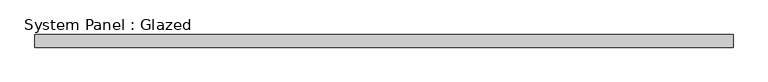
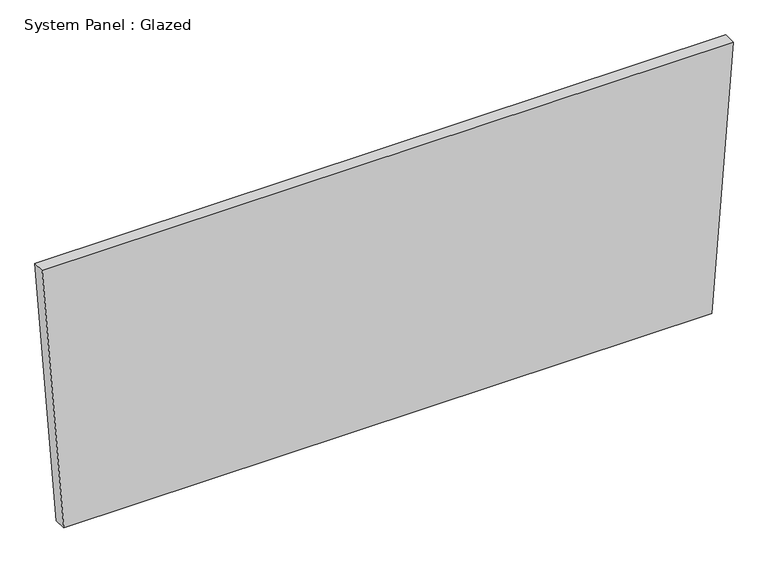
"""IFC4 building model written with IfcOpenShell, lengths in millimetres: plate geometry, System Panel : Glazed."""

from ifc_helpers import new_model, si_unit, frame, origin, place, context, project, spatial, polyline, outline, extrude, source, transform, mapped, element, save


def system_panel_glazed_5e4e3dcc(model_context):
    return source(origin(), model_context, "Body", "SweptSolid", [
        extrude(outline(polyline([(0.0, -659.6429597), (0.0, 659.6429597), (569.6991556, 703.5303825), (569.6991556, -703.5303825), (0.0, -659.6429597)])), frame((0.0, -44.45, 0.0), z_axis=(0.0, 1.0, 0.0), x_axis=(0.0, 0.0, 1.0)), (0.0, 0.0, 1.0), 25.4),
    ])


if __name__ == "__main__":
    model = new_model("IFC4")
    model_context = context("Model", 3, world=origin())
    ifc_project = project(units=[si_unit("LENGTHUNIT", "METRE", prefix="MILLI")], contexts=[model_context])
    site = spatial("IfcSite", under=ifc_project)
    building = spatial("IfcBuilding", under=site)
    placement = place(None, origin())
    system_panel_glazed_shape = system_panel_glazed_5e4e3dcc(model_context)
    element("IfcPlate", 1, ObjectType="System Panel : Glazed", at=placement, inside=building, context=model_context, shape_type="MappedRepresentation", body=[
        mapped(system_panel_glazed_shape, transform((0.0, 0.0, 0.0), x_axis=(1.0, 0.0, 0.0), y_axis=(0.0, 1.0, 0.0), z_axis=(0.0, 0.0, 1.0))),
    ])
    save(model, "model.ifc")
